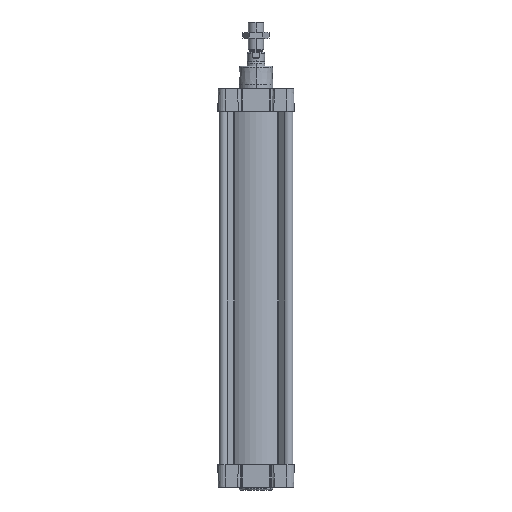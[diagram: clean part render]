
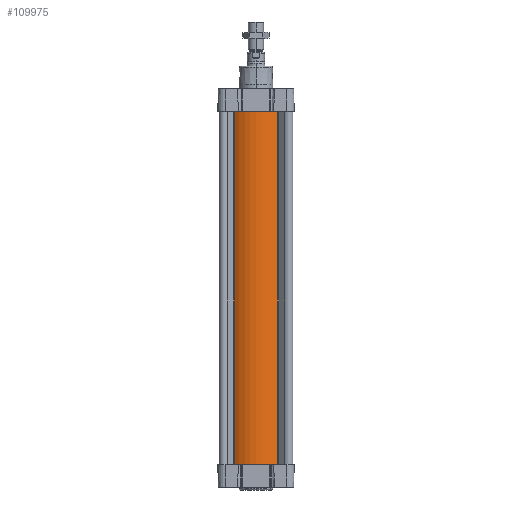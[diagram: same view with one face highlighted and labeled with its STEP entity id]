
A CAD part, left-side view. The second image highlights one B-rep face of the part: STEP entity #109975.
In plain terms, the highlighted cylindrical face has radius 65 mm (diameter 130 mm), a partial arc.
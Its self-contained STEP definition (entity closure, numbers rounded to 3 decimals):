
#7940 = EDGE_CURVE ( 'NONE', #77175, #23927, #71477, .T. ) ;
#10446 = CARTESIAN_POINT ( 'NONE',  ( 38.726, -52.204, 0. ) ) ;
#10505 = DIRECTION ( 'NONE',  ( 1., 0., 0. ) ) ;
#12044 = CARTESIAN_POINT ( 'NONE',  ( 0., 0., -628. ) ) ;
#19804 = DIRECTION ( 'NONE',  ( 0., 0., 1. ) ) ;
#20998 = DIRECTION ( 'NONE',  ( 0., 0., 1. ) ) ;
#22281 = DIRECTION ( 'NONE',  ( 0., 0., 1. ) ) ;
#22970 = CARTESIAN_POINT ( 'NONE',  ( -38.726, -52.204, 0. ) ) ;
#23927 = VERTEX_POINT ( 'NONE', #10446 ) ;
#24120 = VERTEX_POINT ( 'NONE', #81120 ) ;
#28987 = CARTESIAN_POINT ( 'NONE',  ( 0., 0., -628. ) ) ;
#31581 = CARTESIAN_POINT ( 'NONE',  ( 38.726, -52.204, -628. ) ) ;
#32212 = LINE ( 'NONE', #58749, #71550 ) ;
#35337 = AXIS2_PLACEMENT_3D ( 'NONE', #28987, #67109, #125372 ) ;
#38715 = VERTEX_POINT ( 'NONE', #54261 ) ;
#42744 = CIRCLE ( 'NONE', #112877, 65. ) ;
#48609 = CARTESIAN_POINT ( 'NONE',  ( 0., 0., 0. ) ) ;
#50441 = EDGE_CURVE ( 'NONE', #24120, #23927, #56674, .T. ) ;
#54261 = CARTESIAN_POINT ( 'NONE',  ( -38.726, -52.204, -628. ) ) ;
#56674 = LINE ( 'NONE', #31581, #121992 ) ;
#58749 = CARTESIAN_POINT ( 'NONE',  ( -38.726, -52.204, -628. ) ) ;
#64722 = CYLINDRICAL_SURFACE ( 'NONE', #35337, 65. ) ;
#67109 = DIRECTION ( 'NONE',  ( 0., 0., 1. ) ) ;
#71477 = CIRCLE ( 'NONE', #98924, 65. ) ;
#71550 = VECTOR ( 'NONE', #22281, 1000. ) ;
#77175 = VERTEX_POINT ( 'NONE', #22970 ) ;
#79846 = DIRECTION ( 'NONE',  ( 0., 0., 1. ) ) ;
#81120 = CARTESIAN_POINT ( 'NONE',  ( 38.726, -52.204, -628. ) ) ;
#90036 = DIRECTION ( 'NONE',  ( 1., 0., 0. ) ) ;
#90701 = ORIENTED_EDGE ( 'NONE', *, *, #118739, .F. ) ;
#94671 = ORIENTED_EDGE ( 'NONE', *, *, #7940, .F. ) ;
#96155 = EDGE_LOOP ( 'NONE', ( #94671, #90701, #97347, #111621 ) ) ;
#97347 = ORIENTED_EDGE ( 'NONE', *, *, #100264, .T. ) ;
#97982 = FACE_OUTER_BOUND ( 'NONE', #96155, .T. ) ;
#98924 = AXIS2_PLACEMENT_3D ( 'NONE', #48609, #19804, #10505 ) ;
#100264 = EDGE_CURVE ( 'NONE', #38715, #24120, #42744, .T. ) ;
#109975 = ADVANCED_FACE ( 'NONE', ( #97982 ), #64722, .T. ) ;
#111621 = ORIENTED_EDGE ( 'NONE', *, *, #50441, .T. ) ;
#112877 = AXIS2_PLACEMENT_3D ( 'NONE', #12044, #79846, #90036 ) ;
#118739 = EDGE_CURVE ( 'NONE', #38715, #77175, #32212, .T. ) ;
#121992 = VECTOR ( 'NONE', #20998, 1000. ) ;
#125372 = DIRECTION ( 'NONE',  ( 1., 0., 0. ) ) ;
